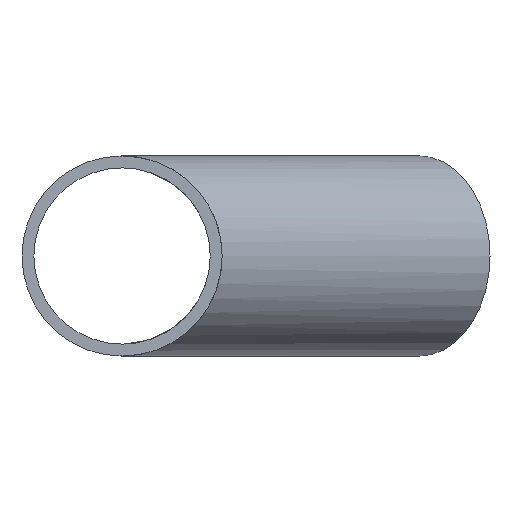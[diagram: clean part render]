
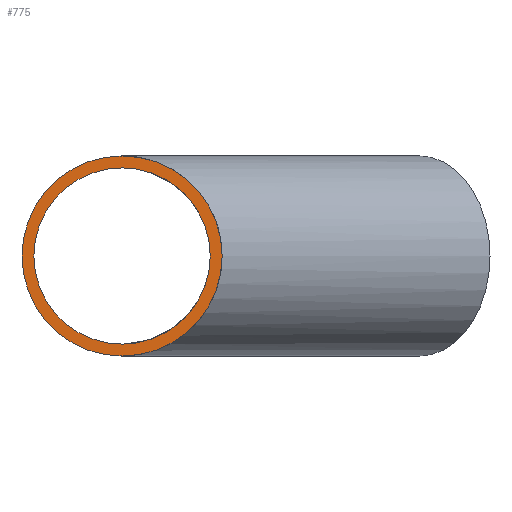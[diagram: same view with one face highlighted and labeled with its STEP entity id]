
A CAD part, front view. The second image highlights one B-rep face of the part: STEP entity #775.
In plain terms, the highlighted planar face has unit normal (0, -1, 0).
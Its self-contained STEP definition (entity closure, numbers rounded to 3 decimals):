
#341=CARTESIAN_POINT('',(-79.3,-190.,0.));
#342=VERTEX_POINT('',#341);
#349=CARTESIAN_POINT('',(0.,-190.,0.));
#350=DIRECTION('',(0.,1.,0.));
#351=DIRECTION('',(1.,0.,0.));
#352=AXIS2_PLACEMENT_3D('',#349,#350,#351);
#353=CIRCLE('',#352,79.3);
#354=EDGE_CURVE('',#342,#342,#353,.T.);
#713=CARTESIAN_POINT('',(-90.,-190.,0.));
#714=VERTEX_POINT('',#713);
#721=CARTESIAN_POINT('',(90.,-190.,0.));
#722=VERTEX_POINT('',#721);
#723=CARTESIAN_POINT('',(0.,-190.,0.));
#724=DIRECTION('',(0.,1.,0.));
#725=DIRECTION('',(1.,0.,0.));
#726=AXIS2_PLACEMENT_3D('',#723,#724,#725);
#727=CIRCLE('',#726,90.);
#728=EDGE_CURVE('',#714,#722,#727,.T.);
#730=EDGE_CURVE('',#722,#714,#727,.T.);
#763=ORIENTED_EDGE('',*,*,#730,.F.);
#764=ORIENTED_EDGE('',*,*,#728,.F.);
#765=EDGE_LOOP('',(#763,#764));
#766=FACE_OUTER_BOUND('',#765,.T.);
#767=ORIENTED_EDGE('',*,*,#354,.T.);
#768=EDGE_LOOP('',(#767));
#769=FACE_BOUND('',#768,.T.);
#770=CARTESIAN_POINT('',(0.,-190.,0.));
#771=DIRECTION('',(0.,1.,0.));
#772=DIRECTION('',(0.,0.,1.));
#773=AXIS2_PLACEMENT_3D('',#770,#771,#772);
#774=PLANE('',#773);
#775=ADVANCED_FACE('',(#766,#769),#774,.F.);
